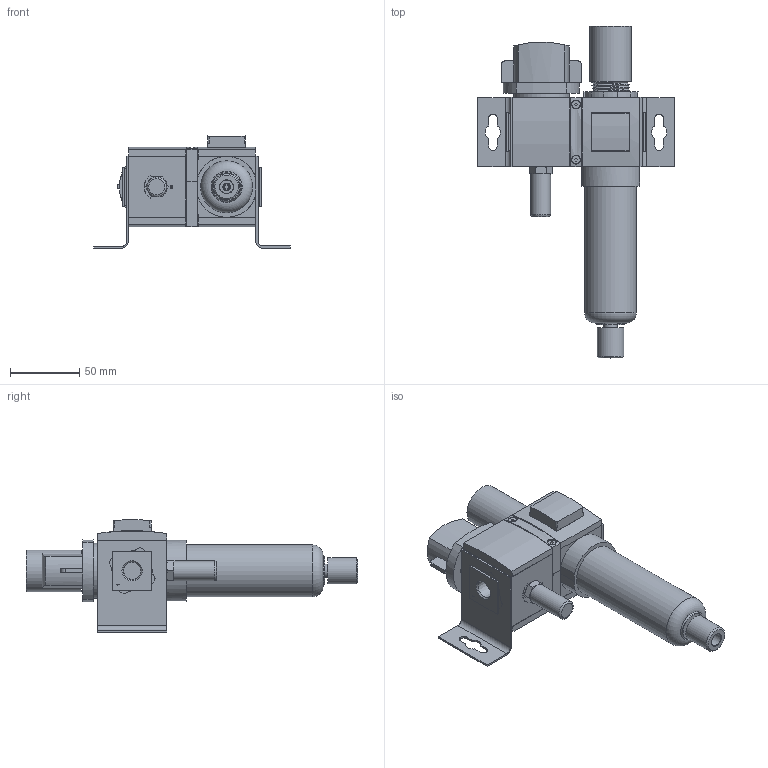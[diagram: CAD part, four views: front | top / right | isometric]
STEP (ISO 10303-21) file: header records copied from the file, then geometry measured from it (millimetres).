
FILE_DESCRIPTION( ( 'STEP AP214' ), '1' );
FILE_NAME( 'p:/temp/worker_39/temp/exporttempdir_4600_61_1bQY0/format_0/12462020-140211_gen_19811.stp', '2020-02-12T13:46:12', ( '' ), ( '' ), ' ', 'PARTsolutions', ' ' );
FILE_SCHEMA( ( 'AUTOMOTIVE_DESIGN { 1 0 10303 214 1 1 1 1 }' ) );
Length unit declared in the file: millimetre
Products named in the file (15): 12462020-140211_gen_19811; _438683-008-FL; _1437740-001-R-0; _M2MN_651; _437742-001-100_651; _G651ASLA0A00A00_LS; _514893-008-FL; _438047-009_651_gauge; _1437740-002-MR-0; _437932-001_BONNET; _504924-001-STANDARD_651; _434133-001; _440512-002; _8651ASLB0L00A00_LS; _8651ASLB0L00A00_RS
Assembly tree (16 placements, depth 2):
  12462020-140211_gen_19811
    _438683-008-FL
    _1437740-001-R-0  x3
    _M2MN_651
    _437742-001-100_651
    _G651ASLA0A00A00_LS
    _514893-008-FL
    _438047-009_651_gauge
    _1437740-002-MR-0
    _437932-001_BONNET
    _504924-001-STANDARD_651
    _434133-001
    _440512-002
    _8651ASLB0L00A00_LS
    _8651ASLB0L00A00_RS
Bounding box: 142.2 x 239.97 x 81.51 mm (x, y, z)
Volume: 479904.6 mm3; surface area: 125476 mm2
Topology: 16 solids, 16 shells, 615 faces, 1528 edges, 992 vertices
Faces by surface type: plane 374, cylinder 186, cone 43, torus 7, bspline 5
Full cylindrical faces by diameter (mm): 2.5 x2, 2.8 x2, 3.5 x2, 4.2 x4, 5 x1, 6 x2, 8.2 x4, 9.728 x2, 13.081 x1, 14.224 x1, 15.1 x1, 19 x1, 20 x2, 20.2 x1, 22.25 x1, 25.5 x2, 30 x1, 35 x1, 37.5 x1, 40 x1
Entity records: 23349 total; most frequent: CARTESIAN_POINT 3942, DIRECTION 3021, ORIENTED_EDGE 2838, EDGE_CURVE 1419, AXIS2_PLACEMENT_3D 1037, VERTEX_POINT 963, LINE 947, VECTOR 947
